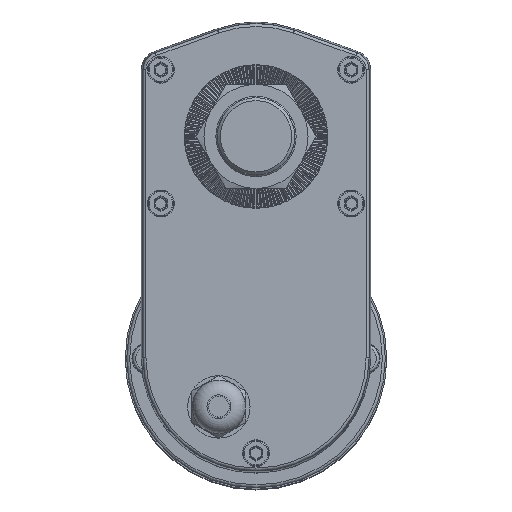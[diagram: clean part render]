
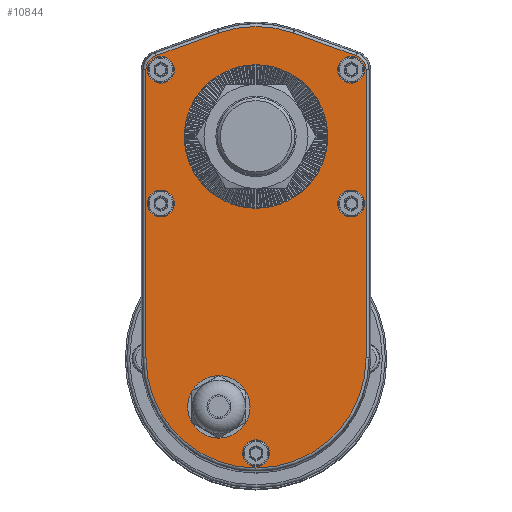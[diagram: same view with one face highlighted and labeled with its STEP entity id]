
A CAD part, top view. The second image highlights one B-rep face of the part: STEP entity #10844.
In plain terms, the highlighted planar face has unit normal (0, 0, 1).
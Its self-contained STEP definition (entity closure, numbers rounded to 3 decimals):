
#598 = CARTESIAN_POINT ( 'NONE',  ( 12.586, 34.812, 40. ) ) ;
#669 = AXIS2_PLACEMENT_3D ( 'NONE', #10978, #30258, #13764 ) ;
#834 = FACE_BOUND ( 'NONE', #4301, .T. ) ;
#913 = AXIS2_PLACEMENT_3D ( 'NONE', #9843, #29118, #12614 ) ;
#1053 = CARTESIAN_POINT ( 'NONE',  ( 0., 0., 40. ) ) ;
#1413 = CARTESIAN_POINT ( 'NONE',  ( 31.995, 22.46, 40. ) ) ;
#1810 = EDGE_CURVE ( 'NONE', #31802, #27347, #16328, .T. ) ;
#1963 = EDGE_CURVE ( 'NONE', #16514, #16514, #34077, .T. ) ;
#2015 = VERTEX_POINT ( 'NONE', #13588 ) ;
#2564 = DIRECTION ( 'NONE',  ( 0., 0., 1. ) ) ;
#3115 = CIRCLE ( 'NONE', #33909, 4.5 ) ;
#3238 = AXIS2_PLACEMENT_3D ( 'NONE', #1053, #20494, #3903 ) ;
#3390 = DIRECTION ( 'NONE',  ( 0., 1., 0. ) ) ;
#3476 = VERTEX_POINT ( 'NONE', #30294 ) ;
#3520 = EDGE_LOOP ( 'NONE', ( #23677 ) ) ;
#3903 = DIRECTION ( 'NONE',  ( -1., 0., 0. ) ) ;
#3989 = AXIS2_PLACEMENT_3D ( 'NONE', #19192, #2564, #21947 ) ;
#4056 = EDGE_LOOP ( 'NONE', ( #13781 ) ) ;
#4276 = DIRECTION ( 'NONE',  ( -1., 0., 0. ) ) ;
#4301 = EDGE_LOOP ( 'NONE', ( #34966 ) ) ;
#4339 = AXIS2_PLACEMENT_3D ( 'NONE', #9462, #34318, #17780 ) ;
#4700 = ORIENTED_EDGE ( 'NONE', *, *, #1963, .F. ) ;
#5242 = CIRCLE ( 'NONE', #22879, 4.5 ) ;
#5403 = VERTEX_POINT ( 'NONE', #12340 ) ;
#6222 = VECTOR ( 'NONE', #31111, 1000. ) ;
#6243 = CARTESIAN_POINT ( 'NONE',  ( -37.012, -74.495, 40. ) ) ;
#6687 = PLANE ( 'NONE',  #4339 ) ;
#7745 = ORIENTED_EDGE ( 'NONE', *, *, #15200, .F. ) ;
#7760 = CARTESIAN_POINT ( 'NONE',  ( -32., 22.46, 40. ) ) ;
#7837 = VERTEX_POINT ( 'NONE', #12669 ) ;
#8287 = FACE_BOUND ( 'NONE', #30783, .T. ) ;
#8332 = CARTESIAN_POINT ( 'NONE',  ( -12.5, -90.966, 40. ) ) ;
#8361 = CARTESIAN_POINT ( 'NONE',  ( 37.012, -74.495, 40. ) ) ;
#8543 = EDGE_LOOP ( 'NONE', ( #7745 ) ) ;
#9182 = VERTEX_POINT ( 'NONE', #24860 ) ;
#9462 = CARTESIAN_POINT ( 'NONE',  ( 0., 0., 40. ) ) ;
#9843 = CARTESIAN_POINT ( 'NONE',  ( 32., -22.54, 40. ) ) ;
#10174 = CARTESIAN_POINT ( 'NONE',  ( 12.586, 34.812, 40. ) ) ;
#10484 = CARTESIAN_POINT ( 'NONE',  ( -37.012, -74.495, 40. ) ) ;
#10539 = DIRECTION ( 'NONE',  ( 1., 0., 0. ) ) ;
#10703 = CIRCLE ( 'NONE', #29093, 8.25 ) ;
#10844 = ADVANCED_FACE ( 'NONE', ( #16483, #30301, #15647, #8287, #834, #29446, #22076, #14789 ), #6687, .F. ) ;
#10978 = CARTESIAN_POINT ( 'NONE',  ( 0., 0., 40. ) ) ;
#10987 = VERTEX_POINT ( 'NONE', #10174 ) ;
#11133 = DIRECTION ( 'NONE',  ( -1., 0., 0. ) ) ;
#11270 = EDGE_CURVE ( 'NONE', #12234, #12234, #34632, .T. ) ;
#11359 = VERTEX_POINT ( 'NONE', #21610 ) ;
#11412 = LINE ( 'NONE', #30940, #25193 ) ;
#11590 = CIRCLE ( 'NONE', #3238, 24.1 ) ;
#12091 = DIRECTION ( 'NONE',  ( 0., -1., 0. ) ) ;
#12234 = VERTEX_POINT ( 'NONE', #32595 ) ;
#12340 = CARTESIAN_POINT ( 'NONE',  ( 37.012, 22.46, 40. ) ) ;
#12423 = CARTESIAN_POINT ( 'NONE',  ( 0., -106.54, 40. ) ) ;
#12456 = CARTESIAN_POINT ( 'NONE',  ( 33.701, 27.179, 40. ) ) ;
#12495 = ORIENTED_EDGE ( 'NONE', *, *, #1810, .T. ) ;
#12614 = DIRECTION ( 'NONE',  ( -1., 0., 0. ) ) ;
#12669 = CARTESIAN_POINT ( 'NONE',  ( -12.586, 34.812, 40. ) ) ;
#13588 = CARTESIAN_POINT ( 'NONE',  ( -33.701, 27.179, 40. ) ) ;
#13665 = CARTESIAN_POINT ( 'NONE',  ( -27.5, -22.54, 40. ) ) ;
#13764 = DIRECTION ( 'NONE',  ( -1., 0., 0. ) ) ;
#13781 = ORIENTED_EDGE ( 'NONE', *, *, #11270, .F. ) ;
#13785 = ORIENTED_EDGE ( 'NONE', *, *, #25876, .T. ) ;
#14082 = CIRCLE ( 'NONE', #913, 4.5 ) ;
#14375 = CARTESIAN_POINT ( 'NONE',  ( -32., -22.54, 40. ) ) ;
#14437 = LINE ( 'NONE', #598, #6222 ) ;
#14789 = FACE_BOUND ( 'NONE', #4056, .T. ) ;
#15194 = DIRECTION ( 'NONE',  ( 1., 0., 0. ) ) ;
#15200 = EDGE_CURVE ( 'NONE', #11359, #11359, #11590, .T. ) ;
#15525 = ORIENTED_EDGE ( 'NONE', *, *, #21694, .T. ) ;
#15647 = FACE_BOUND ( 'NONE', #8543, .T. ) ;
#15765 = DIRECTION ( 'NONE',  ( 0., 0., 1. ) ) ;
#15833 = CARTESIAN_POINT ( 'NONE',  ( 27.5, 22.46, 40. ) ) ;
#16328 = LINE ( 'NONE', #10484, #30141 ) ;
#16483 = FACE_BOUND ( 'NONE', #3520, .T. ) ;
#16514 = VERTEX_POINT ( 'NONE', #15833 ) ;
#16648 = CARTESIAN_POINT ( 'NONE',  ( 27.5, -22.54, 40. ) ) ;
#16755 = VERTEX_POINT ( 'NONE', #8361 ) ;
#16800 = CIRCLE ( 'NONE', #669, 37.017 ) ;
#17132 = DIRECTION ( 'NONE',  ( 1., 0., 0. ) ) ;
#17780 = DIRECTION ( 'NONE',  ( -1., 0., 0. ) ) ;
#19192 = CARTESIAN_POINT ( 'NONE',  ( -31.995, 22.46, 40. ) ) ;
#19381 = ORIENTED_EDGE ( 'NONE', *, *, #28819, .T. ) ;
#19793 = VECTOR ( 'NONE', #30417, 1000. ) ;
#19863 = ORIENTED_EDGE ( 'NONE', *, *, #25826, .F. ) ;
#19960 = VERTEX_POINT ( 'NONE', #13665 ) ;
#19971 = CIRCLE ( 'NONE', #28431, 5.017 ) ;
#20117 = EDGE_LOOP ( 'NONE', ( #12495, #21520, #30579, #19381, #13785, #15525, #33650, #28005 ) ) ;
#20355 = AXIS2_PLACEMENT_3D ( 'NONE', #7760, #27027, #10539 ) ;
#20494 = DIRECTION ( 'NONE',  ( 0., 0., 1. ) ) ;
#20854 = DIRECTION ( 'NONE',  ( 0., 0., 1. ) ) ;
#21347 = EDGE_CURVE ( 'NONE', #2015, #31802, #31951, .T. ) ;
#21520 = ORIENTED_EDGE ( 'NONE', *, *, #32389, .T. ) ;
#21610 = CARTESIAN_POINT ( 'NONE',  ( -24.1, 0., 40. ) ) ;
#21694 = EDGE_CURVE ( 'NONE', #10987, #7837, #16800, .T. ) ;
#21947 = DIRECTION ( 'NONE',  ( -1., 0., 0. ) ) ;
#22076 = FACE_BOUND ( 'NONE', #33979, .T. ) ;
#22879 = AXIS2_PLACEMENT_3D ( 'NONE', #12423, #31687, #15194 ) ;
#23242 = EDGE_LOOP ( 'NONE', ( #29347 ) ) ;
#23677 = ORIENTED_EDGE ( 'NONE', *, *, #33308, .F. ) ;
#24860 = CARTESIAN_POINT ( 'NONE',  ( -20.75, -90.966, 40. ) ) ;
#24979 = CIRCLE ( 'NONE', #30659, 37.012 ) ;
#25193 = VECTOR ( 'NONE', #3390, 1000. ) ;
#25626 = DIRECTION ( 'NONE',  ( -1., 0., 0. ) ) ;
#25826 = EDGE_CURVE ( 'NONE', #19960, #19960, #3115, .T. ) ;
#25876 = EDGE_CURVE ( 'NONE', #30997, #10987, #14437, .T. ) ;
#25891 = DIRECTION ( 'NONE',  ( 0., 0., 1. ) ) ;
#26143 = CARTESIAN_POINT ( 'NONE',  ( 32., 22.46, 40. ) ) ;
#26244 = EDGE_CURVE ( 'NONE', #16755, #5403, #11412, .T. ) ;
#26683 = AXIS2_PLACEMENT_3D ( 'NONE', #26143, #25891, #25626 ) ;
#27027 = DIRECTION ( 'NONE',  ( 0., 0., 1. ) ) ;
#27347 = VERTEX_POINT ( 'NONE', #6243 ) ;
#27609 = DIRECTION ( 'NONE',  ( 0., 0., 1. ) ) ;
#27632 = CARTESIAN_POINT ( 'NONE',  ( -33.701, 27.179, 40. ) ) ;
#28005 = ORIENTED_EDGE ( 'NONE', *, *, #21347, .T. ) ;
#28431 = AXIS2_PLACEMENT_3D ( 'NONE', #1413, #20854, #4276 ) ;
#28763 = EDGE_CURVE ( 'NONE', #3476, #3476, #5242, .T. ) ;
#28819 = EDGE_CURVE ( 'NONE', #5403, #30997, #19971, .T. ) ;
#29093 = AXIS2_PLACEMENT_3D ( 'NONE', #8332, #27609, #11133 ) ;
#29118 = DIRECTION ( 'NONE',  ( 0., 0., 1. ) ) ;
#29347 = ORIENTED_EDGE ( 'NONE', *, *, #28763, .F. ) ;
#29435 = VERTEX_POINT ( 'NONE', #16648 ) ;
#29446 = FACE_BOUND ( 'NONE', #23242, .T. ) ;
#30141 = VECTOR ( 'NONE', #12091, 1000. ) ;
#30258 = DIRECTION ( 'NONE',  ( 0., 0., 1. ) ) ;
#30294 = CARTESIAN_POINT ( 'NONE',  ( 4.5, -106.54, 40. ) ) ;
#30301 = FACE_OUTER_BOUND ( 'NONE', #20117, .T. ) ;
#30417 = DIRECTION ( 'NONE',  ( -0.94, -0.34, 0. ) ) ;
#30579 = ORIENTED_EDGE ( 'NONE', *, *, #26244, .T. ) ;
#30659 = AXIS2_PLACEMENT_3D ( 'NONE', #32291, #15765, #35074 ) ;
#30783 = EDGE_LOOP ( 'NONE', ( #4700 ) ) ;
#30940 = CARTESIAN_POINT ( 'NONE',  ( 37.012, 22.46, 40. ) ) ;
#30997 = VERTEX_POINT ( 'NONE', #12456 ) ;
#31111 = DIRECTION ( 'NONE',  ( -0.94, 0.34, 0. ) ) ;
#31502 = CARTESIAN_POINT ( 'NONE',  ( -37.012, 22.46, 40. ) ) ;
#31687 = DIRECTION ( 'NONE',  ( 0., 0., 1. ) ) ;
#31696 = EDGE_CURVE ( 'NONE', #7837, #2015, #35321, .T. ) ;
#31802 = VERTEX_POINT ( 'NONE', #31502 ) ;
#31951 = CIRCLE ( 'NONE', #3989, 5.017 ) ;
#32291 = CARTESIAN_POINT ( 'NONE',  ( 0., -74.495, 40. ) ) ;
#32389 = EDGE_CURVE ( 'NONE', #27347, #16755, #24979, .T. ) ;
#32595 = CARTESIAN_POINT ( 'NONE',  ( -27.5, 22.46, 40. ) ) ;
#33308 = EDGE_CURVE ( 'NONE', #9182, #9182, #10703, .T. ) ;
#33650 = ORIENTED_EDGE ( 'NONE', *, *, #31696, .T. ) ;
#33682 = DIRECTION ( 'NONE',  ( 0., 0., 1. ) ) ;
#33909 = AXIS2_PLACEMENT_3D ( 'NONE', #14375, #33682, #17132 ) ;
#33979 = EDGE_LOOP ( 'NONE', ( #19863 ) ) ;
#34077 = CIRCLE ( 'NONE', #26683, 4.5 ) ;
#34318 = DIRECTION ( 'NONE',  ( 0., 0., -1. ) ) ;
#34632 = CIRCLE ( 'NONE', #20355, 4.5 ) ;
#34948 = EDGE_CURVE ( 'NONE', #29435, #29435, #14082, .T. ) ;
#34966 = ORIENTED_EDGE ( 'NONE', *, *, #34948, .F. ) ;
#35074 = DIRECTION ( 'NONE',  ( -1., 0., 0. ) ) ;
#35321 = LINE ( 'NONE', #27632, #19793 ) ;
